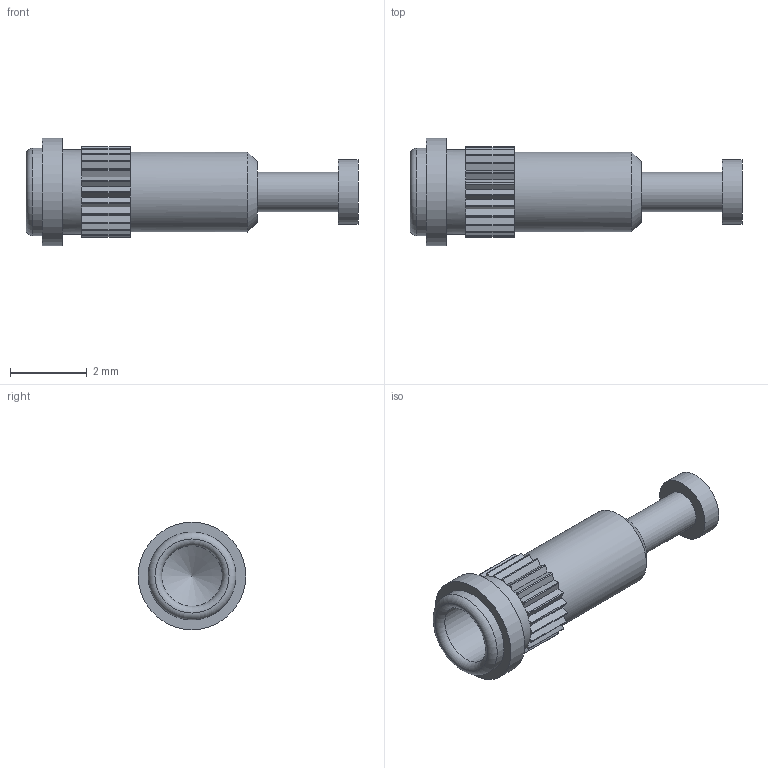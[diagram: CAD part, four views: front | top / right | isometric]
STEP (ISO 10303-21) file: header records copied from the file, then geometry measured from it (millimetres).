
FILE_DESCRIPTION(/* description */ (''),/* implementation_level */ '2;1');
FILE_NAME(/* name */ '\\Snap1\dwgs\Customer 3D Models\450\450-3755 Customer model.stp',/* time_stamp */ '2016-12-20T17:23:03+00:00',/* author */ ('paulk'),/* organization */ (''),/* preprocessor_version */ 'ST-DEVELOPER v15.2',/* originating_system */ 'Autodesk Inventor 2014',/* authorisation */ '');
FILE_SCHEMA (('CONFIG_CONTROL_DESIGN'));
Length unit declared in the file: millimetre
Products named in the file (1): 450-3755 Customer model
Bounding box: 8.63 x 2.79 x 2.79 mm (x, y, z)
Volume: 15.8 mm3; surface area: 92.6 mm2
Topology: 1 solids, 1 shells, 166 faces, 378 edges, 217 vertices
Faces by surface type: plane 130, cylinder 32, torus 2, cone 2
Full cylindrical faces by diameter (mm): 1.016 x1, 1.575 x1, 1.676 x1, 2.08 x1, 2.2 x1, 2.286 x1, 2.794 x1
Entity records: 4500 total; most frequent: DIRECTION 837, CARTESIAN_POINT 745, ORIENTED_EDGE 728, EDGE_CURVE 364, AXIS2_PLACEMENT_3D 306, LINE 225, VECTOR 225, VERTEX_POINT 214
